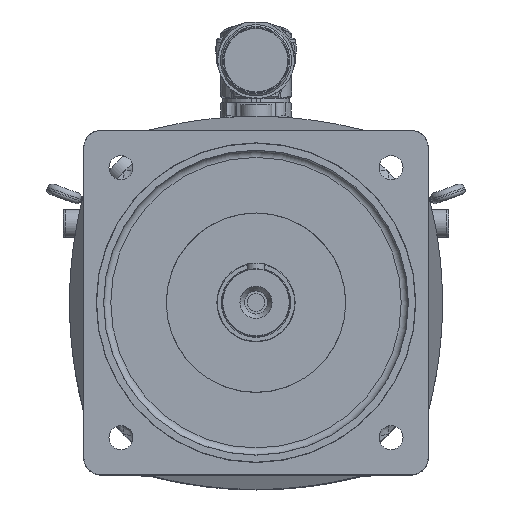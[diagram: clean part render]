
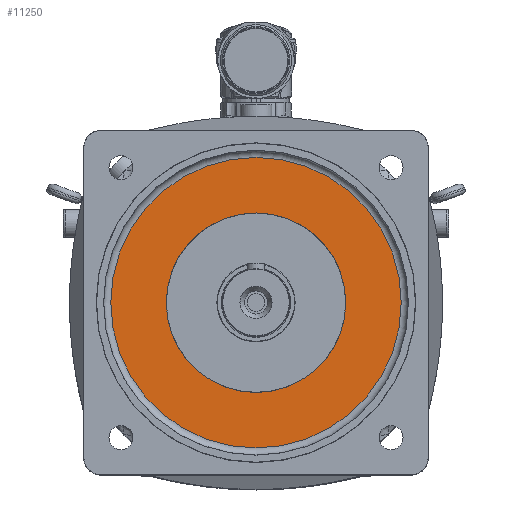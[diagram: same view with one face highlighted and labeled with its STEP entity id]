
A CAD part, top view. The second image highlights one B-rep face of the part: STEP entity #11250.
In plain terms, the highlighted planar face has unit normal (0, 0, 1).
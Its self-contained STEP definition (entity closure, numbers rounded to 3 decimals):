
#178=FACE_BOUND('',#3892,.T.);
#3253=FACE_OUTER_BOUND('',#3891,.T.);
#3891=EDGE_LOOP('',(#8901));
#3892=EDGE_LOOP('',(#8902));
#4465=CIRCLE('',#12172,81.774);
#4478=CIRCLE('',#12202,50.546);
#5213=VERTEX_POINT('',#17484);
#5246=VERTEX_POINT('',#17584);
#6518=EDGE_CURVE('',#5213,#5213,#4465,.T.);
#6567=EDGE_CURVE('',#5246,#5246,#4478,.T.);
#8901=ORIENTED_EDGE('',*,*,#6518,.F.);
#8902=ORIENTED_EDGE('',*,*,#6567,.F.);
#10850=PLANE('',#12201);
#11250=ADVANCED_FACE('',(#3253,#178),#10850,.F.);
#12172=AXIS2_PLACEMENT_3D('',#17486,#14228,#14229);
#12201=AXIS2_PLACEMENT_3D('',#17583,#14322,#14323);
#12202=AXIS2_PLACEMENT_3D('',#17585,#14324,#14325);
#14228=DIRECTION('center_axis',(0.,0.,-1.));
#14229=DIRECTION('ref_axis',(0.,-1.,0.));
#14322=DIRECTION('center_axis',(0.,0.,-1.));
#14323=DIRECTION('ref_axis',(-1.,0.,0.));
#14324=DIRECTION('center_axis',(0.,0.,1.));
#14325=DIRECTION('ref_axis',(-1.,0.,0.));
#17484=CARTESIAN_POINT('',(-81.774,0.,13.4));
#17486=CARTESIAN_POINT('Origin',(0.,0.,13.4));
#17583=CARTESIAN_POINT('Origin',(0.,0.,13.4));
#17584=CARTESIAN_POINT('',(50.546,0.,13.4));
#17585=CARTESIAN_POINT('Origin',(0.,0.,13.4));
